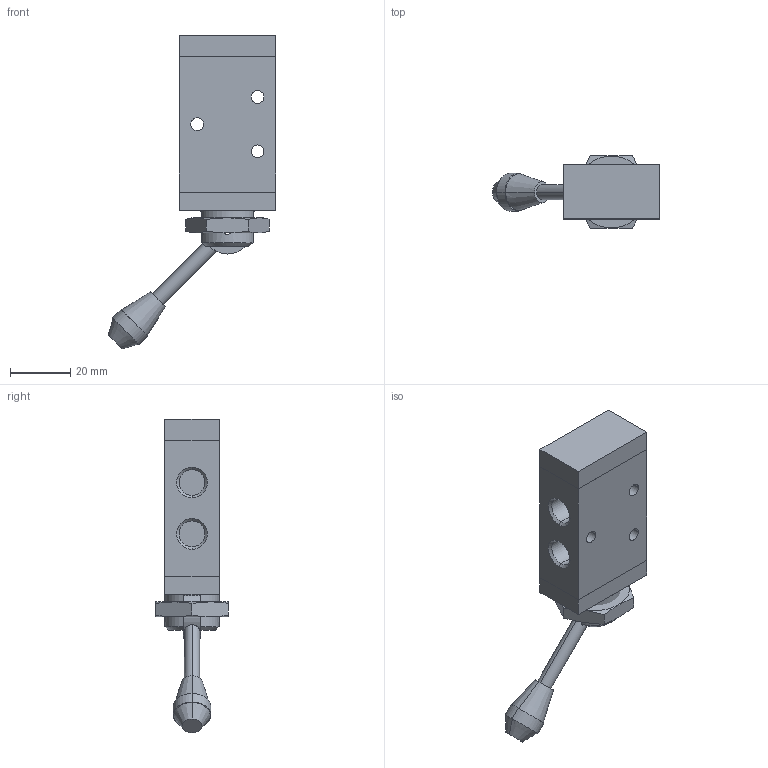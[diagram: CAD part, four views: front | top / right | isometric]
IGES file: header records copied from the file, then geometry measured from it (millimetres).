
Global section: file name: No Iges File Name specified; native system: AutoDesk Inventor R11.0; preprocessor: AutoDesk Inventor Iges Exporter R11.0; author: No Author specified; organization: No Organization specified; date: 20061219.114036; units: millimetre
Bounding box: 55.42 x 24 x 103.92 mm (x, y, z)
Volume: 37578.5 mm3; surface area: 12232.5 mm2
Topology: 3 solids, 3 shells, 89 faces, 210 edges, 136 vertices
Faces by surface type: plane 39, bspline 23, revolution 10, cone 10, cylinder 7
